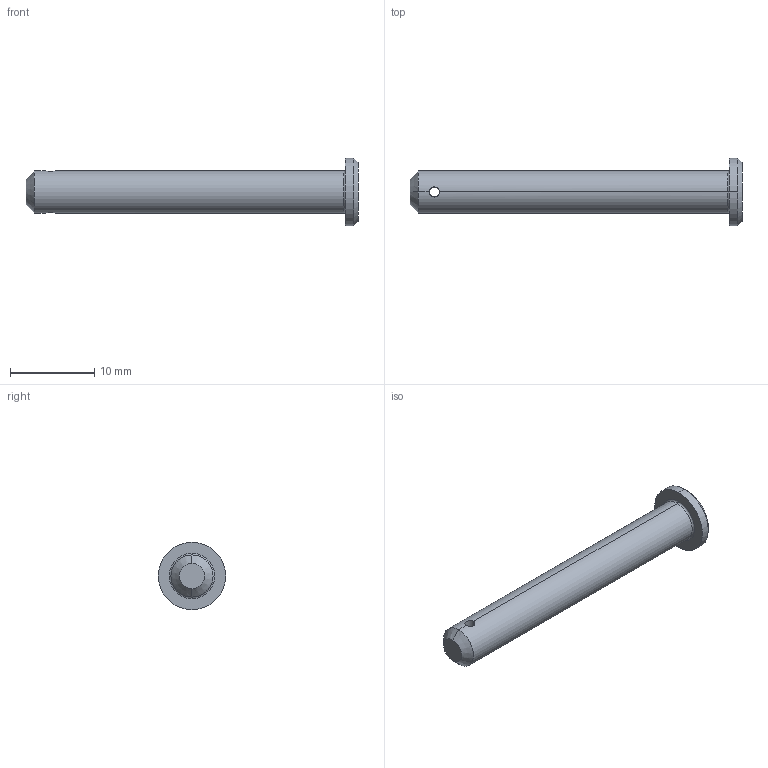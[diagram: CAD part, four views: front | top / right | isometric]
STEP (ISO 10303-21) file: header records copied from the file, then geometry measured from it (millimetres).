
FILE_DESCRIPTION (( 'STEP AP203' ), '1' );
FILE_NAME ('Wiberger-sms2360_5x38.step', '2012-10-09T08:58:08', ( 'Magnus' ), ( 'Wiberger' ), 'SwSTEP 2.0', 'SolidWorks 2011', '' );
FILE_SCHEMA (( 'CONFIG_CONTROL_DESIGN' ));
Length unit declared in the file: millimetre
Products named in the file (1): Wiberger-sms2360_5x38
Bounding box: 39.5 x 8 x 8 mm (x, y, z)
Volume: 806.2 mm3; surface area: 731.9 mm2
Topology: 1 solids, 1 shells, 15 faces, 32 edges, 18 vertices
Faces by surface type: cylinder 6, cone 4, plane 3, torus 2
Entity records: 511 total; most frequent: CARTESIAN_POINT 102, DIRECTION 76, ORIENTED_EDGE 64, EDGE_CURVE 32, AXIS2_PLACEMENT_3D 32, VERTEX_POINT 18, CIRCLE 16, EDGE_LOOP 16
